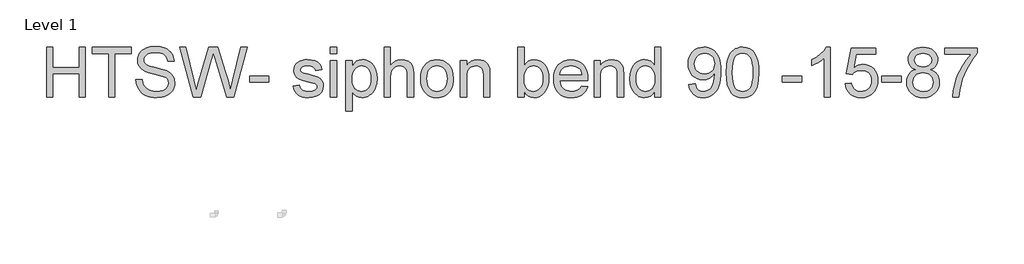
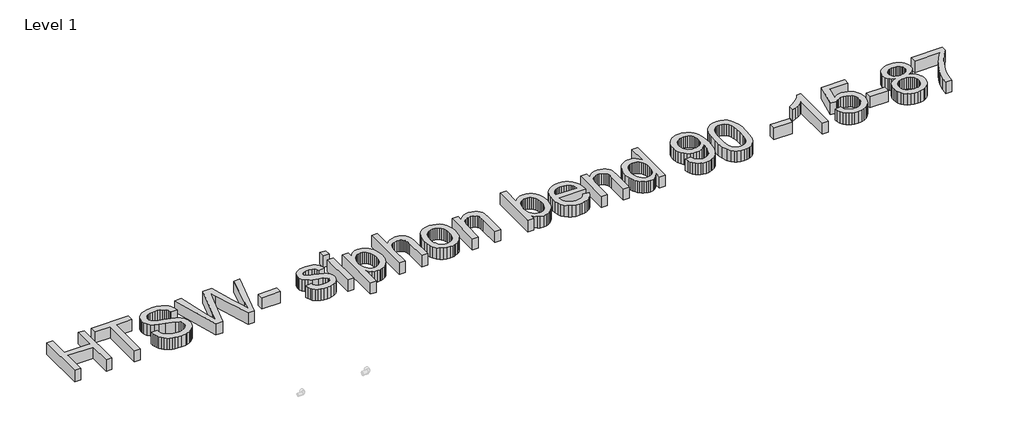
# One storey, part 23 of 29: 1 proxy.
"""IFC4 building model written with IfcOpenShell, lengths in millimetres."""

import ifcopenshell
import ifcopenshell.guid

model = None  # the IFC model being written
_history = None  # IfcOwnerHistory: only IFC2X3 demands one
_inside = {}  # id of a spatial element -> (the spatial element, [elements in it])
_under = {}  # id of a project, library or spatial element -> (it, [spatial elements below it])
_declared = {}  # id of a project -> (the project, [libraries it declares])
_typed = {}  # id of a type object -> (the type object, [elements of that type])
_made_of = {}  # id of a material, layer set ... -> (it, [elements and type objects made of it])


def new_model(schema):
    """Start an empty IFC model of exactly this schema.

    Asked for "IFC4X3", IfcOpenShell would pick the latest addendum, in which some entities
    have other attributes; the version numbers below select the first issue.
    IFC2X3 requires an IfcOwnerHistory on every rooted entity: one is made here for all.
    """
    global model, _history
    if schema == "IFC4X3":
        model = ifcopenshell.file(schema_version=(4, 3, 0, 0))
    else:
        model = ifcopenshell.file(schema=schema)
    _inside.clear()
    _under.clear()
    _declared.clear()
    _typed.clear()
    _made_of.clear()
    _history = None
    if model.schema == "IFC2X3":
        org = make("IfcOrganization", Name="unknown")
        user = make(
            "IfcPersonAndOrganization",
            ThePerson=make("IfcPerson", FamilyName="unknown"),
            TheOrganization=org,
        )
        app = make(
            "IfcApplication",
            ApplicationDeveloper=org,
            Version="unknown",
            ApplicationFullName="unknown",
            ApplicationIdentifier="unknown",
        )
        _history = make(
            "IfcOwnerHistory",
            OwningUser=user,
            OwningApplication=app,
            ChangeAction="ADDED",
            CreationDate=0,
        )
    return model


def make(cls, **values):
    """One entity of the class cls with the attributes given. An attribute that is None is left unset."""
    return model.create_entity(
        cls, **{name: value for name, value in values.items() if value is not None}
    )


def rooted(cls, **values):
    """An entity with a GlobalId (a new one), such as an element, a storey or a relation."""
    return make(cls, GlobalId=ifcopenshell.guid.new(), OwnerHistory=_history, **values)


def si_unit(unit_type, name, prefix=None):
    """IfcSIUnit, for example si_unit("LENGTHUNIT", "METRE", prefix="MILLI")."""
    return make("IfcSIUnit", UnitType=unit_type, Prefix=prefix, Name=name)


def assignment(units):
    """IfcUnitAssignment: the units of a project."""
    return None if units is None else make("IfcUnitAssignment", Units=units)


def point(xyz):
    """IfcCartesianPoint."""
    return None if xyz is None else make("IfcCartesianPoint", Coordinates=xyz)


def direction(xyz):
    """IfcDirection."""
    return None if xyz is None else make("IfcDirection", DirectionRatios=xyz)


def frame(location, z_axis=None, x_axis=None):
    """IfcAxis2Placement3D, a coordinate frame: its origin and axes. An axis left out is left unset."""
    return make(
        "IfcAxis2Placement3D",
        Location=point(location),
        Axis=direction(z_axis),
        RefDirection=direction(x_axis),
    )


def origin():
    """The frame at (0, 0, 0) with its axes left unset."""
    return frame((0.0, 0.0, 0.0))


def origin_with_axes():
    """The frame at (0, 0, 0) with the z axis (0, 0, 1) and the x axis (1, 0, 0) written out."""
    return frame((0.0, 0.0, 0.0), z_axis=(0.0, 0.0, 1.0), x_axis=(1.0, 0.0, 0.0))


def place(relative_to, where):
    """IfcLocalPlacement: puts the frame where relative to a parent placement (None: the world)."""
    return make(
        "IfcLocalPlacement", PlacementRelTo=relative_to, RelativePlacement=where
    )


def context(
    kind, dimensions, precision=None, world=None, true_north=None, identifier=None
):
    """IfcGeometricRepresentationContext, for example the 3D "Model" context."""
    return make(
        "IfcGeometricRepresentationContext",
        ContextIdentifier=identifier,
        ContextType=kind,
        CoordinateSpaceDimension=dimensions,
        Precision=precision,
        WorldCoordinateSystem=world,
        TrueNorth=true_north,
    )


def project(units=None, contexts=None):
    """IfcProject with its units and contexts."""
    return rooted(
        "IfcProject",
        Name="project",
        RepresentationContexts=contexts,
        UnitsInContext=assignment(units),
    )


def spatial(cls, under=None, at=None, **own):
    """A site, building, storey or space (cls), placed at a placement, below another one or the project."""
    s = rooted(cls, ObjectPlacement=at, **own)
    if under is not None:
        _under.setdefault(under.id(), (under, []))[1].append(s)
    return s


def polyline(points):
    """IfcPolyline through the points."""
    return make("IfcPolyline", Points=[point(p) for p in points])


def outline(outer, holes=None, kind="AREA"):
    """IfcArbitraryClosedProfileDef: a profile drawn as a closed curve; with holes, ...WithVoids."""
    if holes is None:
        return make("IfcArbitraryClosedProfileDef", ProfileType=kind, OuterCurve=outer)
    return make(
        "IfcArbitraryProfileDefWithVoids",
        ProfileType=kind,
        OuterCurve=outer,
        InnerCurves=holes,
    )


def extrude(swept, where, along, depth):
    """IfcExtrudedAreaSolid: the profile swept, set in the frame where, extruded along a direction by depth."""
    return make(
        "IfcExtrudedAreaSolid",
        SweptArea=swept,
        Position=where,
        ExtrudedDirection=direction(along),
        Depth=depth,
    )


def shape(context_of_items, identifier, shape_type, items):
    """IfcShapeRepresentation: the items that make up one representation, for example the "Body"."""
    return make(
        "IfcShapeRepresentation",
        ContextOfItems=context_of_items,
        RepresentationIdentifier=identifier,
        RepresentationType=shape_type,
        Items=items,
    )


def made_of(thing, what):
    """Note that an element or type object is made of a material, layer set ...; save() writes the relation."""
    if what is not None:
        _made_of.setdefault(what.id(), (what, []))[1].append(thing)
    return thing


def element(
    cls,
    number,
    at=None,
    inside=None,
    cuts=None,
    type_object=None,
    material=None,
    context=None,
    identifier="Body",
    shape_type=None,
    held_by="IfcProductDefinitionShape",
    body=None,
    shapes=None,
    **own,
):
    """One element of the class cls, such as IfcWall. Its Tag is "e" and its number.

    at: its placement. inside: the storey or other place that contains it. cuts: it is an
    opening in that element (IfcRelVoidsElement). A single representation is given by context,
    identifier, shape_type and body (its items); several are given by shapes. held_by: the class
    of the entity that holds the representations. save() writes the other relations.
    """
    e = rooted(cls, Tag="e%d" % number, ObjectPlacement=at, **own)
    if body is not None:
        shapes = [shape(context, identifier, shape_type, body)]
    if shapes is not None:
        e.Representation = make(held_by, Representations=shapes)
    if inside is not None:
        _inside.setdefault(inside.id(), (inside, []))[1].append(e)
    if cuts is not None:
        rooted(
            "IfcRelVoidsElement", RelatingBuildingElement=cuts, RelatedOpeningElement=e
        )
    if type_object is not None:
        _typed.setdefault(type_object.id(), (type_object, []))[1].append(e)
    return made_of(e, material)


def aggregate(whole, parts):
    """IfcRelAggregates: a whole, such as a stair, and the parts it consists of."""
    return rooted("IfcRelAggregates", RelatingObject=whole, RelatedObjects=parts)


def save(model, path):
    """Write the relations noted so far, then the file.

    IfcRelAggregates (storeys below a building ...), IfcRelContainedInSpatialStructure (elements
    in a storey), IfcRelDefinesByType, IfcRelAssociatesMaterial and IfcRelDeclares: one each for
    every whole, place, type object, material and project.
    """
    for whole, parts in _under.values():
        aggregate(whole, parts)
    for where, things in _inside.values():
        rooted(
            "IfcRelContainedInSpatialStructure",
            RelatedElements=things,
            RelatingStructure=where,
        )
    for kind, things in _typed.values():
        rooted("IfcRelDefinesByType", RelatedObjects=things, RelatingType=kind)
    for what, things in _made_of.values():
        rooted("IfcRelAssociatesMaterial", RelatedObjects=things, RelatingMaterial=what)
    for by, libraries in _declared.values():
        rooted("IfcRelDeclares", RelatingContext=by, RelatedDefinitions=libraries)
    model.write(path)


model = new_model("IFC4")

# Units and contexts
model_context = context("Model", 3, world=origin())
ifc_project = project(units=[si_unit("LENGTHUNIT", "METRE", prefix="MILLI")], contexts=[model_context])

# Site, building, storey
site = spatial("IfcSite", under=ifc_project)
building = spatial("IfcBuilding", under=site)
storey = spatial("IfcBuildingStorey", under=building, Name="Level 1", Elevation=0.0)

# Proxy
placement = place(None, origin())
element("IfcBuildingElementProxy", 1, Name="600mm Arial", ObjectType="600mm Arial", at=placement, inside=storey, context=model_context, shape_type="SweptSolid", body=[
    extrude(outline(polyline([(14483.8034381, 20336.8870935), (14483.8034381, 20939.6249544), (14559.1456707, 20939.6249544), (14559.1456707, 20694.7626984), (14879.3501593, 20694.7626984), (14879.3501593, 20939.6249544), (14954.6923919, 20939.6249544), (14954.6923919, 20336.8870935), (14879.3501593, 20336.8870935), (14879.3501593, 20619.4204658), (14559.1456707, 20619.4204658), (14559.1456707, 20336.8870935), (14483.8034381, 20336.8870935)])), origin_with_axes(), (0.0, 0.0, 1.0), 150.0),
    extrude(outline(polyline([(15237.2257642, 20336.8870935), (15237.2257642, 20864.2827218), (15039.4524036, 20864.2827218), (15039.4524036, 20939.6249544), (15510.3413574, 20939.6249544), (15510.3413574, 20864.2827218), (15312.5679968, 20864.2827218), (15312.5679968, 20336.8870935), (15237.2257642, 20336.8870935)])), origin_with_axes(), (0.0, 0.0, 1.0), 150.0),
    extrude(outline(polyline([(15566.8480319, 20544.0782332), (15642.1902645, 20544.0782332), (15650.8354914, 20502.2684444), (15666.4704762, 20468.6624242), (15690.8610525, 20441.9909795), (15725.7730538, 20420.9849176), (15768.4473652, 20407.3548897), (15816.1248718, 20402.811547), (15858.1002075, 20406.2512437), (15894.8516188, 20416.5703336), (15924.6316663, 20432.9042942), (15945.6929105, 20454.3886027), (15958.2192925, 20479.0550905), (15962.3947531, 20504.9355889), (15959.2677561, 20530.1538996), (15949.8867653, 20551.9509079), (15930.8304779, 20570.5473427), (15898.6775915, 20586.1639334), (15788.9751806, 20614.9323054), (15716.96228, 20633.9701987), (15670.8850601, 20652.0883869), (15633.3794907, 20677.4354564), (15606.8000166, 20708.153603), (15590.9626967, 20743.5806391), (15585.68359, 20783.0543772), (15587.3160664, 20805.4905804), (15592.2134955, 20827.1818225), (15600.3758772, 20848.1281036), (15611.8032117, 20868.3294237), (15626.3667402, 20886.9626468), (15643.937704, 20903.2046369), (15664.5161031, 20917.055394), (15688.1019375, 20928.5149181), (15741.113733, 20943.9107796), (15799.7909112, 20949.0427335), (15863.36092, 20943.6716563), (15918.9846777, 20927.5584249), (15943.3200716, 20915.5562748), (15964.6756215, 20901.0341331), (15983.0513271, 20883.9919997), (15998.4471886, 20864.4298746), (16010.7436443, 20842.9179749), (16019.8211325, 20820.0265177), (16025.6796533, 20795.7555031), (16028.3192066, 20770.104931), (15952.976974, 20770.104931), (15947.9369907, 20794.1460194), (15939.144611, 20815.0601108), (15926.599835, 20832.8472053), (15910.3026626, 20847.5073028), (15889.9495912, 20858.9668269), (15865.2371182, 20867.1522013), (15836.1652435, 20872.063426), (15802.7339672, 20873.7005008), (15768.2358331, 20872.0818201), (15738.7592882, 20867.2257777), (15714.3043326, 20859.1323738), (15694.8709662, 20847.8016084), (15680.0637159, 20834.1807775), (15669.4871085, 20819.2171774), (15663.1411441, 20802.9108079), (15661.0258226, 20785.2616692), (15662.5249418, 20770.0773398), (15667.0222992, 20756.3093562), (15674.5178948, 20743.9577182), (15685.0117287, 20733.0224259), (15701.5296303, 20722.6665477), (15727.5388874, 20712.200305), (15808.0314679, 20690.9367256), (15891.0992224, 20670.7400041), (15941.351903, 20653.1184565), (15984.3021259, 20625.7848243), (16000.9073995, 20609.7175782), (16014.2661144, 20592.0500453), (16024.5346206, 20572.8741963), (16031.8692679, 20552.2820017), (16037.7369857, 20506.8485752), (16036.0493271, 20483.2811349), (16030.9863511, 20460.4034734), (16022.5480578, 20438.2155905), (16010.7344473, 20416.7174864), (15995.752453, 20396.7414941), (15977.8090087, 20379.1199465), (15956.9041143, 20363.8528437), (15933.0377699, 20350.9401857), (15906.9043527, 20340.6716795), (15879.1982399, 20333.3370322), (15819.0679278, 20327.4693144), (15780.5276903, 20329.051207), (15745.2524054, 20333.7968847), (15713.2420733, 20341.7063476), (15684.4966939, 20352.7795957), (15658.8415233, 20367.035023), (15636.1018175, 20384.4910237), (15616.2775765, 20405.1475977), (15599.3688003, 20429.0047451), (15585.7479694, 20455.2899136), (15575.7875644, 20483.2305512), (15569.4875852, 20512.8266577), (15566.8480319, 20544.0782332)])), origin_with_axes(), (0.0, 0.0, 1.0), 150.0),
    extrude(outline(polyline([(16258.6133356, 20336.8870935), (16094.2436602, 20939.6249544), (16171.9403376, 20939.6249544), (16267.2953507, 20543.489622), (16296.7259103, 20421.2056468), (16328.2166091, 20529.3629534), (16447.7046811, 20939.6249544), (16559.6879605, 20939.6249544), (16646.5081113, 20642.2291495), (16683.700981, 20531.8645509), (16711.1081897, 20421.2056468), (16739.6558325, 20539.9579548), (16835.8937624, 20939.6249544), (16913.5904398, 20939.6249544), (16749.0736116, 20336.8870935), (16668.581031, 20336.8870935), (16524.0769833, 20801.8899354), (16503.91705, 20866.7843193), (16481.2555191, 20788.6461836), (16349.5537648, 20336.8870935), (16258.6133356, 20336.8870935)])), origin_with_axes(), (0.0, 0.0, 1.0), 150.0),
    extrude(outline(polyline([(16941.8437771, 20515.8248959), (16941.8437771, 20591.1671285), (17177.288254, 20591.1671285), (17177.288254, 20515.8248959), (16941.8437771, 20515.8248959)])), origin_with_axes(), (0.0, 0.0, 1.0), 150.0),
    extrude(outline(polyline([(17469.2394053, 20468.7360005), (17544.581638, 20478.1537796), (17549.1341776, 20460.9736905), (17556.4642264, 20445.9273168), (17566.5717842, 20433.0146588), (17579.4568511, 20422.2357164), (17595.1562152, 20413.7376423), (17613.7066648, 20407.6675893), (17659.3608204, 20402.811547), (17704.4631531, 20407.2629192), (17721.9927301, 20412.8271343), (17736.174581, 20420.6170356), (17754.9365628, 20439.9676285), (17759.6270582, 20450.8017533), (17761.1905567, 20462.4084302), (17759.6178612, 20472.5803674), (17754.8997746, 20481.6118704), (17736.0274282, 20496.2535738), (17707.8108792, 20505.8185057), (17658.4779037, 20517.7378823), (17589.7207588, 20537.6219041), (17545.0230963, 20554.5996582), (17516.3099066, 20573.1225167), (17495.5061798, 20597.6418517), (17482.8694333, 20626.5941647), (17478.6571844, 20658.4159573), (17482.0416988, 20687.6073936), (17492.1952418, 20714.5547497), (17508.1981086, 20738.1911679), (17529.1305942, 20757.4497904), (17549.934321, 20769.5715021), (17577.0288299, 20779.7434393), (17608.3539818, 20786.6412267), (17641.8496375, 20788.9404892), (17690.8883074, 20785.2432751), (17733.5258307, 20774.1516329), (17767.8124326, 20756.7508146), (17791.7983387, 20734.1260719), (17807.6908409, 20704.6035418), (17817.6972312, 20666.5093612), (17742.3549986, 20657.0915821), (17732.845249, 20680.8015767), (17714.0280849, 20698.6622475), (17685.7195654, 20709.8642543), (17647.7357494, 20713.5982565), (17604.4728268, 20710.0298012), (17575.6308783, 20699.3244351), (17559.4072824, 20683.8733913), (17553.999417, 20666.0679028), (17556.2434972, 20654.4796199), (17562.9757377, 20644.1421358), (17574.4904442, 20634.9082978), (17591.0819221, 20627.5138697), (17655.9763061, 20611.4742147), (17766.5616338, 20576.0103903), (17795.7714643, 20559.0510304), (17817.9179604, 20535.8376765), (17831.8790821, 20506.2967523), (17836.5327893, 20470.3546813), (17831.0697417, 20433.1985998), (17814.6805988, 20398.2498103), (17787.9907601, 20368.2490336), (17751.6256248, 20345.9369906), (17707.7005146, 20332.0862334), (17658.3307509, 20327.4693144), (17617.7809579, 20329.6950005), (17582.3631189, 20336.3720587), (17552.0772336, 20347.500489), (17526.9233022, 20363.0802915), (17506.3770928, 20383.0378898), (17489.9143735, 20407.2997074), (17477.5351443, 20435.8657443), (17469.2394053, 20468.7360005)])), origin_with_axes(), (0.0, 0.0, 1.0), 150.0),
    extrude(outline(polyline([(17921.292801, 20864.2827218), (17921.292801, 20939.6249544), (17996.6350336, 20939.6249544), (17996.6350336, 20864.2827218), (17921.292801, 20864.2827218)])), origin_with_axes(), (0.0, 0.0, 1.0), 150.0),
    extrude(outline(polyline([(17921.292801, 20336.8870935), (17921.292801, 20779.5227101), (17996.6350336, 20779.5227101), (17996.6350336, 20336.8870935), (17921.292801, 20336.8870935)])), origin_with_axes(), (0.0, 0.0, 1.0), 150.0),
    extrude(outline(polyline([(18109.6483825, 20167.3670701), (18109.6483825, 20779.5227101), (18184.9906152, 20779.5227101), (18184.9906152, 20705.6520054), (18209.5651324, 20742.0907171), (18237.0827057, 20768.1183682), (18269.1620157, 20783.7349589), (18307.4217432, 20788.9404892), (18333.6977147, 20787.1194733), (18358.3733995, 20781.6564256), (18381.4487976, 20772.5513463), (18402.9239091, 20759.8042351), (18422.3296843, 20743.746186), (18439.1970738, 20724.7082928), (18453.5260775, 20702.6905554), (18465.3166955, 20677.6929738), (18481.0988331, 20622.1795807), (18486.3595456, 20561.5894161), (18480.4182514, 20497.1548847), (18472.9916336, 20467.4898003), (18462.5943687, 20439.5261701), (18449.369011, 20413.9951597), (18433.4581147, 20391.6279344), (18414.8616798, 20372.4244942), (18393.5797064, 20356.3848392), (18370.6560596, 20343.7342971), (18347.1346045, 20334.6981956), (18323.0153412, 20329.2765347), (18298.2982697, 20327.4693144), (18263.6621798, 20332.3069626), (18232.7416981, 20346.8199073), (18206.2725886, 20368.7272802), (18184.9906152, 20395.7482127), (18184.9906152, 20167.3670701), (18109.6483825, 20167.3670701)]), holes=[polyline([(18184.9906152, 20554.6732346), (18187.0277617, 20518.3632817), (18193.1392014, 20487.1301003), (18203.3249341, 20460.9736905), (18217.5849599, 20439.8940521), (18234.7512535, 20423.6704561), (18253.6557896, 20412.0821733), (18274.298568, 20405.1292036), (18296.6795889, 20402.811547), (18319.3825065, 20405.211977), (18340.402364, 20412.4132671), (18359.7391614, 20424.4154172), (18377.3928986, 20441.2184273), (18392.1035799, 20463.0614208), (18402.6112094, 20490.1835209), (18408.9157871, 20522.5847276), (18411.017313, 20560.2650409), (18408.9663709, 20596.2622942), (18402.8135445, 20627.4402933), (18392.5588339, 20653.7990382), (18378.202239, 20675.338529), (18360.9945587, 20692.0771598), (18342.1865917, 20704.0333247), (18321.778338, 20711.2070236), (18299.7697977, 20713.5982565), (18277.8302352, 20711.0552722), (18257.1874567, 20703.4263194), (18237.8414623, 20690.7113979), (18219.7922519, 20672.9105079), (18204.5665358, 20650.2627725), (18193.6910243, 20623.0073152), (18187.1657175, 20591.1441359), (18184.9906152, 20554.6732346)])]), origin_with_axes(), (0.0, 0.0, 1.0), 150.0),
    extrude(outline(polyline([(18571.1195573, 20336.8870935), (18571.1195573, 20939.6249544), (18646.4617899, 20939.6249544), (18646.4617899, 20718.0128405), (18674.135713, 20749.0436868), (18705.2125445, 20771.208577), (18739.6922845, 20784.5075111), (18777.574933, 20788.9404892), (18823.0819358, 20784.1028409), (18862.1877919, 20769.5898962), (18892.9795149, 20746.5420892), (18913.5441184, 20716.0998541), (18925.1324013, 20674.2716713), (18928.9951622, 20617.066021), (18928.9951622, 20336.8870935), (18853.6529296, 20336.8870935), (18853.6529296, 20609.2669227), (18852.1538105, 20634.7059627), (18847.6564531, 20656.4293945), (18840.1608574, 20674.4372182), (18829.6670235, 20688.7294337), (18816.4232717, 20699.6095437), (18800.6779223, 20707.3810508), (18782.4309753, 20712.0439551), (18761.6824308, 20713.5982565), (18729.8422441, 20709.4044018), (18699.951832, 20696.8228376), (18675.1933737, 20677.0675744), (18658.7490485, 20651.352623), (18649.5336046, 20617.1763856), (18646.4617899, 20572.0372648), (18646.4617899, 20336.8870935), (18571.1195573, 20336.8870935)])), origin_with_axes(), (0.0, 0.0, 1.0), 150.0),
    extrude(outline(polyline([(19013.7551739, 20558.2049018), (19017.829467, 20615.5301137), (19030.0523463, 20664.9274686), (19050.4238118, 20706.3969665), (19078.9438634, 20739.9386074), (19107.6570532, 20761.3769307), (19139.350087, 20776.6900187), (19174.0229651, 20785.8778715), (19211.6756873, 20788.9404892), (19253.2417542, 20785.2110854), (19290.8254986, 20774.0228742), (19324.4269203, 20755.3758556), (19354.0460194, 20729.2700295), (19378.220465, 20696.5883128), (19395.4879262, 20658.2136222), (19405.8484029, 20614.1459577), (19409.3018951, 20564.3853193), (19407.7751848, 20524.0562556), (19403.195054, 20488.2705345), (19395.5615026, 20457.0281561), (19384.8745306, 20430.3291203), (19371.2674953, 20407.2675177), (19354.8737539, 20386.9374389), (19335.6933064, 20369.338884), (19313.7261528, 20354.4718528), (19289.8276186, 20342.6582423), (19264.8530297, 20334.219949), (19238.8023859, 20329.1569731), (19211.6756873, 20327.4693144), (19169.5026151, 20331.1849226), (19131.5693828, 20342.331747), (19097.8759906, 20360.9097878), (19068.4224384, 20386.9190448), (19044.5055102, 20419.9180598), (19027.42199, 20459.4653743), (19017.1718779, 20505.5609883), (19013.7551739, 20558.2049018)]), holes=[polyline([(19089.0974065, 20558.3520546), (19091.2771073, 20521.8075769), (19097.8162098, 20490.1651268), (19108.7147139, 20463.4247042), (19123.9726196, 20441.5863093), (19142.5322663, 20424.6223508), (19163.3359931, 20412.5052376), (19186.3838001, 20405.2349697), (19211.6756873, 20402.811547), (19236.8388158, 20405.2487652), (19259.7946523, 20412.5604199), (19280.5431968, 20424.746511), (19299.0844494, 20441.8070385), (19314.3423551, 20463.8615641), (19325.2408592, 20491.0296495), (19331.7799617, 20523.3112945), (19333.9596625, 20560.7064993), (19331.7661661, 20596.0921488), (19325.1856769, 20626.9068644), (19314.2181949, 20653.1506462), (19298.8637202, 20674.8234942), (19280.2534897, 20691.7874527), (19259.5187408, 20703.904566), (19236.6594733, 20711.1748339), (19211.6756873, 20713.5982565), (19186.3838001, 20711.1840309), (19163.3359931, 20703.9413542), (19142.5322663, 20691.8702262), (19123.9726196, 20674.970647), (19108.7147139, 20653.1966315), (19097.8162098, 20626.5021942), (19091.2771073, 20594.8873352), (19089.0974065, 20558.3520546)])]), origin_with_axes(), (0.0, 0.0, 1.0), 150.0),
    extrude(outline(polyline([(19494.0619068, 20336.8870935), (19494.0619068, 20779.5227101), (19569.4041394, 20779.5227101), (19569.4041394, 20717.7185349), (19595.5789434, 20748.8781399), (19627.0144599, 20771.1350006), (19663.7106889, 20784.489117), (19705.6676304, 20788.9404892), (19742.8053178, 20785.3536397), (19776.8160083, 20774.5930913), (19805.1797101, 20758.0016134), (19825.3764317, 20736.921975), (19839.080036, 20711.4093587), (19847.9643862, 20681.5189466), (19851.9375117, 20608.6783115), (19851.9375117, 20336.8870935), (19776.5952791, 20336.8870935), (19776.5952791, 20598.5247684), (19774.4247753, 20637.4834717), (19767.913264, 20665.184986), (19755.9019169, 20685.0322196), (19737.2319056, 20700.4280811), (19713.3011818, 20710.3057127), (19685.5076971, 20713.5982565), (19662.6300355, 20711.7496495), (19641.3802518, 20706.2038284), (19621.7583458, 20696.9607933), (19603.7643178, 20684.0205441), (19588.7317397, 20665.9115529), (19577.994184, 20641.1622917), (19571.5516506, 20609.7727604), (19569.4041394, 20571.7429592), (19569.4041394, 20336.8870935), (19494.0619068, 20336.8870935)])), origin_with_axes(), (0.0, 0.0, 1.0), 150.0),
    extrude(outline(polyline([(20266.3197911, 20336.8870935), (20190.9775585, 20336.8870935), (20190.9775585, 20939.6249544), (20266.3197911, 20939.6249544), (20266.3197911, 20716.0998541), (20291.0966434, 20747.9676319), (20319.0740692, 20770.7303304), (20350.2520683, 20784.3879495), (20384.6306407, 20788.9404892), (20423.4421912, 20784.8386049), (20460.1200261, 20772.5329522), (20492.5672181, 20752.7960831), (20518.6868398, 20726.40055), (20539.1594728, 20693.6038701), (20554.6656989, 20654.6635609), (20564.4329659, 20611.1983032), (20567.6887215, 20564.8267777), (20564.3180027, 20511.3183415), (20554.2058464, 20464.2478402), (20537.3522525, 20423.6152738), (20513.757221, 20389.4206424), (20485.4349059, 20362.3169364), (20454.3994611, 20342.9571464), (20420.6508866, 20331.3412724), (20384.1891823, 20327.4693144), (20348.6793727, 20332.4633125), (20317.197871, 20347.4453067), (20289.7446771, 20372.4152972), (20266.3197911, 20407.3732838), (20266.3197911, 20336.8870935)]), holes=[polyline([(20266.3197911, 20561.2951105), (20271.470139, 20498.4608658), (20277.9080739, 20474.6589007), (20286.9211828, 20455.9337071), (20305.1773268, 20432.6927621), (20326.3949209, 20416.092087), (20350.573965, 20406.131682), (20377.7144592, 20402.811547), (20400.2472314, 20405.2579623), (20421.198111, 20412.5972081), (20440.5670981, 20424.8292844), (20458.3541926, 20441.9541913), (20473.2258222, 20463.9259435), (20483.8484148, 20490.6985557), (20490.2219704, 20522.2720279), (20492.3464889, 20558.6463602), (20490.3093424, 20595.7104712), (20484.1979027, 20627.5874461), (20474.01217, 20654.2772848), (20459.7521441, 20675.7799874), (20442.6042446, 20692.3254802), (20423.7548909, 20704.1436893), (20403.204083, 20711.2346147), (20380.9518208, 20713.5982565), (20358.4190486, 20711.1518413), (20337.4681689, 20703.8125955), (20318.0991819, 20691.5805191), (20300.3120874, 20674.4556123), (20285.4404578, 20652.7045893), (20274.8178652, 20626.5941647), (20268.4443096, 20596.1243384), (20266.3197911, 20561.2951105)])]), origin_with_axes(), (0.0, 0.0, 1.0), 150.0),
    extrude(outline(polyline([(20962.3525259, 20468.7360005), (21036.2232306, 20459.3182215), (21024.8970636, 20429.731312), (21009.6069682, 20403.6576756), (20990.3529443, 20381.0973122), (20967.1349919, 20362.0502219), (20940.1922343, 20346.9210749), (20909.7637947, 20336.1145413), (20875.8496733, 20329.6306211), (20838.44987, 20327.4693144), (20791.7012654, 20331.1987181), (20750.0478265, 20342.3869293), (20713.4895533, 20361.0339479), (20682.0264456, 20387.139774), (20656.7253614, 20419.9778406), (20638.6531584, 20458.8215808), (20627.8098366, 20503.6709945), (20624.195396, 20554.5260818), (20627.8466248, 20607.105616), (20638.8003112, 20653.4495503), (20657.0564552, 20693.5578849), (20682.6150568, 20727.4306196), (20713.995391, 20754.3411875), (20749.7167327, 20773.5630218), (20789.779082, 20785.0961223), (20834.1824388, 20788.9404892), (20877.1556544, 20785.1053194), (20916.0177887, 20773.59981), (20950.7688416, 20754.423961), (20981.4088133, 20727.5777724), (21006.4201904, 20693.778614), (21024.2854598, 20653.7438559), (21035.0046215, 20607.473498), (21038.5776753, 20554.9675402), (21038.136217, 20534.6604541), (20699.5376286, 20534.6604541), (20703.9016288, 20504.595298), (20712.5790453, 20478.2641442), (20725.5698783, 20455.6669927), (20742.8741276, 20436.8038434), (20763.5353002, 20421.9322137), (20786.5969027, 20411.3096211), (20812.0589353, 20404.9360655), (20839.9213979, 20402.811547), (20880.0205354, 20406.7478844), (20913.7921026, 20418.5568964), (20941.2360994, 20438.9743471), (20962.3525259, 20468.7360005)]), holes=[polyline([(20699.5376286, 20610.0026867), (20963.2354427, 20610.0026867), (20953.0451115, 20649.8075186), (20944.2803229, 20665.4608975), (20933.0691191, 20678.281585), (20912.5229097, 20693.7326288), (20889.1440089, 20704.7690887), (20862.9324167, 20711.3909646), (20833.8881332, 20713.5982565), (20807.3960311, 20711.8370215), (20783.1020238, 20706.5533163), (20761.0061115, 20697.7471411), (20741.108294, 20685.4184957), (20724.41105, 20670.1375973), (20711.9168577, 20652.474663), (20703.6257173, 20632.4296928), (20699.5376286, 20610.0026867)])]), origin_with_axes(), (0.0, 0.0, 1.0), 150.0),
    extrude(outline(polyline([(21113.919908, 20336.8870935), (21113.919908, 20779.5227101), (21189.2621406, 20779.5227101), (21189.2621406, 20717.7185349), (21215.4369445, 20748.8781399), (21246.872461, 20771.1350006), (21283.56869, 20784.489117), (21325.5256316, 20788.9404892), (21362.663319, 20785.3536397), (21396.6740095, 20774.5930913), (21425.0377113, 20758.0016134), (21445.2344328, 20736.921975), (21458.9380371, 20711.4093587), (21467.8223873, 20681.5189466), (21471.7955129, 20608.6783115), (21471.7955129, 20336.8870935), (21396.4532803, 20336.8870935), (21396.4532803, 20598.5247684), (21394.2827765, 20637.4834717), (21387.7712652, 20665.184986), (21375.759918, 20685.0322196), (21357.0899068, 20700.4280811), (21333.159183, 20710.3057127), (21305.3656982, 20713.5982565), (21282.4880367, 20711.7496495), (21261.2382529, 20706.2038284), (21241.616347, 20696.9607933), (21223.6223189, 20684.0205441), (21208.5897409, 20665.9115529), (21197.8521852, 20641.1622917), (21191.4096517, 20609.7727604), (21189.2621406, 20571.7429592), (21189.2621406, 20336.8870935), (21113.919908, 20336.8870935)])), origin_with_axes(), (0.0, 0.0, 1.0), 150.0),
    extrude(outline(polyline([(21848.5066759, 20336.8870935), (21848.5066759, 20407.9618949), (21825.9647067, 20372.746391), (21798.6586656, 20347.5924595), (21766.5885527, 20332.5001007), (21729.7543679, 20327.4693144), (21704.885545, 20329.2903303), (21681.0467917, 20334.7533779), (21658.238108, 20343.8584573), (21636.4594939, 20356.6055684), (21616.3915311, 20372.6130337), (21598.7148012, 20391.4991757), (21583.4293043, 20413.2639942), (21570.5350404, 20437.9074894), (21560.2987239, 20464.9606116), (21552.9870692, 20493.9543113), (21547.1377455, 20557.7634434), (21552.5272167, 20620.7816292), (21568.6956304, 20677.6929738), (21580.8173421, 20703.0492403), (21595.6245924, 20725.2601158), (21613.1173813, 20744.3256002), (21633.2957087, 20760.2456935), (21655.4468034, 20772.7996666), (21678.8578939, 20781.7667902), (21703.5289802, 20787.1470644), (21729.4600623, 20788.9404892), (21766.3218382, 20783.8085353), (21798.916183, 20768.4126738), (21826.5441208, 20744.8130438), (21848.5066759, 20715.0697845), (21848.5066759, 20939.6249544), (21923.8489085, 20939.6249544), (21923.8489085, 20336.8870935), (21848.5066759, 20336.8870935)]), holes=[polyline([(21622.4799781, 20558.057749), (21624.6044966, 20521.5224683), (21630.9780522, 20489.9076094), (21641.6006448, 20463.2131721), (21656.4722744, 20441.4391565), (21674.2317778, 20424.5395774), (21693.5179914, 20412.4684494), (21714.3309152, 20405.2257726), (21736.6705494, 20402.811547), (21759.1159496, 20405.115408), (21779.8047133, 20412.026991), (21798.7368405, 20423.546296), (21815.9123312, 20439.6733229), (21830.172357, 20460.5368306), (21840.3580897, 20486.2655776), (21846.4695294, 20516.859564), (21848.5066759, 20552.3187899), (21846.4327412, 20591.1947197), (21840.2109369, 20624.5340255), (21829.8412632, 20652.3367073), (21815.32372, 20674.6027651), (21797.7711503, 20691.6632926), (21778.2963971, 20703.8493837), (21756.8994606, 20711.1610383), (21733.5803406, 20713.5982565), (21710.7992481, 20711.2576073), (21689.9863242, 20704.2356598), (21671.141569, 20692.5324138), (21654.2649825, 20676.1478694), (21640.3590431, 20654.7233417), (21630.4262292, 20627.9001458), (21624.4665409, 20595.6782815), (21622.4799781, 20558.057749)])]), origin_with_axes(), (0.0, 0.0, 1.0), 150.0),
    extrude(outline(polyline([(22262.8889553, 20487.5715587), (22338.2311879, 20496.9893378), (22351.1070577, 20454.2230558), (22360.5800191, 20437.9580731), (22372.0763315, 20425.1051959), (22385.4672361, 20415.3517245), (22400.6239743, 20408.3849592), (22436.2349514, 20402.811547), (22468.1855027, 20406.3983965), (22497.2297862, 20417.1589448), (22521.3628451, 20433.9159697), (22538.5797225, 20455.4922487), (22551.6211392, 20483.8559506), (22563.2278162, 20520.9752439), (22571.3947964, 20563.5759789), (22574.1171232, 20608.3840059), (22573.6756648, 20623.0992857), (22547.5744373, 20591.2407049), (22513.416594, 20566.0040001), (22473.6669444, 20549.5596749), (22430.7902979, 20544.0782332), (22394.9999783, 20547.4259593), (22362.0883353, 20557.4691378), (22332.0553689, 20574.2077686), (22304.9010791, 20597.6418517), (22282.4004966, 20626.5481794), (22266.3286519, 20659.7035442), (22256.6855451, 20697.1079461), (22253.4711762, 20738.761385), (22256.841895, 20781.8035784), (22266.9540513, 20820.4311879), (22283.8076452, 20854.6442135), (22307.4026767, 20884.4426551), (22336.0744797, 20908.584911), (22368.1583882, 20925.8293796), (22403.6544022, 20936.1760607), (22442.5625217, 20939.6249544), (22471.289507, 20937.6567857), (22498.7564965, 20931.7522797), (22524.9634901, 20921.9114363), (22549.9104879, 20908.1342556), (22572.7651569, 20890.7150431), (22592.695164, 20869.9481045), (22609.7005092, 20845.8334397), (22623.7811926, 20818.3710488), (22634.8222509, 20785.9790391), (22642.7087212, 20747.0755181), (22647.4406034, 20701.6604858), (22649.0178974, 20649.7339422), (22647.4452019, 20595.2000349), (22642.7271153, 20546.5246484), (22634.8636377, 20503.7077827), (22623.854769, 20466.7494378), (22609.7418959, 20434.7483027), (22592.5664053, 20406.8030667), (22572.328297, 20382.9137296), (22549.0275711, 20363.0802915), (22523.1332772, 20347.500489), (22495.1144647, 20336.3720587), (22464.9711338, 20329.6950005), (22432.7032843, 20327.4693144), (22398.8673378, 20330.0950721), (22368.2871469, 20337.9723454), (22340.9627117, 20351.1011341), (22316.8940322, 20369.4814383), (22296.6881136, 20392.6166172), (22280.9519613, 20420.0100303), (22269.6855752, 20451.6616774), (22262.8889553, 20487.5715587)]), holes=[polyline([(22573.6756648, 20740.5272186), (22571.6431168, 20767.529757), (22565.5454727, 20791.5892395), (22555.3827326, 20812.705666), (22541.1548964, 20830.8790366), (22523.56094, 20845.4931489), (22503.2998391, 20855.9318005), (22480.3715938, 20862.1949914), (22454.776204, 20864.2827218), (22428.3622767, 20862.0340431), (22404.449947, 20855.288007), (22383.0392149, 20844.0446135), (22364.1300804, 20828.3038626), (22348.6790366, 20808.9854594), (22337.6425767, 20787.0091087), (22331.0207008, 20762.3748106), (22328.8134088, 20735.0825651), (22330.9011392, 20710.6046168), (22337.1643301, 20688.5270986), (22347.6029817, 20668.8500104), (22362.217094, 20651.5733522), (22380.3996616, 20637.5064644), (22401.5436793, 20627.4586874), (22425.649147, 20621.4300212), (22452.7160648, 20619.4204658), (22477.9573682, 20621.4300212), (22500.8534239, 20627.4586874), (22521.4042318, 20637.5064644), (22539.6097921, 20651.5733522), (22554.5136114, 20669.1903012), (22565.1591966, 20689.8882619), (22571.5465478, 20713.6672344), (22573.6756648, 20740.5272186)])]), origin_with_axes(), (0.0, 0.0, 1.0), 150.0),
    extrude(outline(polyline([(22714.942351, 20633.3999816), (22720.478975, 20729.8770348), (22727.399755, 20770.7901112), (22737.0888471, 20806.8195541), (22749.5048644, 20838.2596691), (22764.6064203, 20865.4047618), (22782.3935148, 20888.2548323), (22802.8661478, 20906.8098804), (22826.0932973, 20921.1664753), (22852.1439411, 20931.4211859), (22881.0180792, 20937.5740123), (22912.7157116, 20939.6249544), (22959.1424194, 20934.768912), (23000.7130848, 20920.200785), (23035.4779334, 20896.4907904), (23061.4871904, 20864.2091454), (23081.132089, 20823.6317613), (23096.803862, 20775.0345497), (23107.0677696, 20713.322345), (23110.4890722, 20633.3999816), (23105.0076305, 20537.4747513), (23098.1558283, 20496.6996307), (23088.5633053, 20460.7161731), (23076.243857, 20429.2622625), (23061.2112789, 20402.075783), (23043.4655712, 20379.1567347), (23023.0067337, 20360.5051176), (22999.7519931, 20346.0519537), (22973.6185759, 20335.7282652), (22944.606482, 20329.5340521), (22912.7157116, 20327.4693144), (22871.2186225, 20331.0561639), (22834.430423, 20341.8167122), (22802.351113, 20359.7509595), (22774.9806926, 20384.8589056), (22748.7139181, 20430.2463468), (22729.9519364, 20486.7990065), (22718.6947473, 20554.5168848), (22714.942351, 20633.3999816)]), holes=[polyline([(22790.2845836, 20633.5471344), (22792.4918755, 20568.0503437), (22799.1137515, 20515.0339496), (22810.1502113, 20474.4979523), (22825.6012551, 20446.4423516), (22844.2896605, 20427.3538746), (22865.038205, 20413.7192482), (22887.8468887, 20405.5384723), (22912.7157116, 20402.811547), (22937.5845344, 20405.5476694), (22960.3932181, 20413.7560364), (22981.1417627, 20427.4366481), (22999.830168, 20446.5895044), (23015.2812118, 20474.6910903), (23026.3176717, 20515.2178906), (23032.9395476, 20568.1699053), (23035.1468396, 20633.5471344), (23033.013124, 20697.3102812), (23026.6119773, 20749.3931747), (23015.9433994, 20789.7958148), (23001.0073904, 20818.5182016), (22982.6316848, 20838.5401792), (22961.6440169, 20852.8415917), (22938.0443869, 20861.4224393), (22911.8327948, 20864.2827218), (22887.0927306, 20861.7627301), (22864.670323, 20854.2027551), (22844.565572, 20841.6027968), (22826.7784775, 20823.9628551), (22810.8123989, 20792.6928855), (22799.4080571, 20750.5336089), (22792.5654519, 20697.4850251), (22790.2845836, 20633.5471344)])]), origin_with_axes(), (0.0, 0.0, 1.0), 150.0),
    extrude(outline(polyline([(23393.0224445, 20515.8248959), (23393.0224445, 20591.1671285), (23628.4669214, 20591.1671285), (23628.4669214, 20515.8248959), (23393.0224445, 20515.8248959)])), origin_with_axes(), (0.0, 0.0, 1.0), 150.0),
    extrude(outline(polyline([(23976.9247472, 20336.8870935), (23901.5825146, 20336.8870935), (23901.5825146, 20806.5988249), (23870.128604, 20781.159785), (23830.2134075, 20755.7575332), (23788.3116483, 20733.5558548), (23750.8980494, 20717.7185349), (23750.8980494, 20788.9404892), (23810.0718683, 20821.1301637), (23861.3362243, 20859.4266794), (23901.7480615, 20900.1512163), (23928.3643239, 20939.6249544), (23976.9247472, 20939.6249544), (23976.9247472, 20336.8870935)])), origin_with_axes(), (0.0, 0.0, 1.0), 150.0),
    extrude(outline(polyline([(24155.8625497, 20496.9893378), (24231.2047823, 20506.4071169), (24236.8333768, 20482.186686), (24245.0371453, 20461.1760255), (24255.8160878, 20443.3751355), (24269.1702042, 20428.7840159), (24285.0719034, 20417.4210607), (24303.4935943, 20409.3046642), (24324.4352769, 20404.4348263), (24347.8969512, 20402.811547), (24376.5917468, 20405.0694228), (24401.902028, 20411.84305), (24423.827795, 20423.1324287), (24442.3690475, 20438.9375589), (24457.1119185, 20458.4766914), (24467.6425406, 20480.9680769), (24473.9609139, 20506.4117154), (24476.0670383, 20534.8076069), (24474.0942711, 20561.6445984), (24468.1759695, 20585.5017458), (24458.3121335, 20606.379049), (24444.5027631, 20624.2765081), (24426.701873, 20638.633103), (24404.8634781, 20648.8878136), (24378.9875783, 20655.04064), (24349.0741735, 20657.0915821), (24312.5250973, 20653.8174323), (24282.9289908, 20643.9949831), (24259.2925726, 20628.9486094), (24240.6225614, 20610.0026867), (24165.2803288, 20619.4204658), (24231.2047823, 20930.2071753), (24523.1559337, 20930.2071753), (24523.1559337, 20854.8649427), (24292.1260407, 20854.8649427), (24259.8995779, 20688.8765865), (24286.4882491, 20707.9328738), (24313.7207138, 20721.5445076), (24341.596972, 20729.7114879), (24370.1170237, 20732.4338147), (24406.8086542, 20729.0584974), (24440.5112434, 20718.9325455), (24471.2247915, 20702.0559589), (24498.9492984, 20678.4287378), (24521.9005364, 20649.4948189), (24538.2942778, 20616.698139), (24548.1305226, 20580.0386982), (24551.4092709, 20539.5164964), (24548.4570179, 20500.4842167), (24539.6002588, 20464.1742638), (24524.8389938, 20430.5866376), (24504.1732227, 20399.7213383), (24472.8664649, 20368.1110778), (24436.3357828, 20345.5323204), (24394.5811763, 20331.9850659), (24347.6026456, 20327.4693144), (24308.7221172, 20330.3709836), (24273.6031822, 20339.0759913), (24242.2458407, 20353.5843375), (24214.6500925, 20373.8960222), (24191.6896575, 20398.9993698), (24174.2382553, 20427.882705), (24162.2958861, 20460.5460276), (24155.8625497, 20496.9893378)])), origin_with_axes(), (0.0, 0.0, 1.0), 150.0),
    extrude(outline(polyline([(24598.4981663, 20515.8248959), (24598.4981663, 20591.1671285), (24833.9426432, 20591.1671285), (24833.9426432, 20515.8248959), (24598.4981663, 20515.8248959)])), origin_with_axes(), (0.0, 0.0, 1.0), 150.0),
    extrude(outline(polyline([(25009.6430841, 20668.8638059), (24969.3048233, 20688.7294337), (24953.6468459, 20701.3109979), (24940.9963038, 20715.6583957), (24924.2760671, 20749.0988691), (24918.7026549, 20788.4990308), (24921.7376813, 20819.2263744), (24930.8427607, 20847.3969382), (24946.017893, 20873.0107221), (24967.2630782, 20896.0677261), (24993.5574438, 20915.1240135), (25023.8801173, 20928.7356473), (25058.2310986, 20936.9026276), (25096.6103877, 20939.6249544), (25135.1736179, 20936.8382483), (25169.7821166, 20928.4781299), (25200.4358838, 20914.5445994), (25227.1349196, 20895.0376566), (25248.7663809, 20871.5299971), (25264.2174247, 20845.5943164), (25273.488051, 20817.2306146), (25276.5782598, 20786.4388916), (25271.078424, 20748.3079228), (25254.5789165, 20715.4376665), (25242.1583006, 20701.1868377), (25226.8957963, 20688.6742514), (25187.8451225, 20668.8638059), (25212.6081793, 20658.3285853), (25234.216648, 20644.9698703), (25252.6705286, 20628.7876611), (25267.9698211, 20609.7819575), (25279.9765697, 20588.3758239), (25288.5528187, 20564.9923246), (25293.6985681, 20539.6314595), (25295.4138179, 20512.2932288), (25292.0109095, 20474.714083), (25281.8021841, 20440.2619341), (25264.7876418, 20408.9367822), (25240.9672826, 20380.7386273), (25211.5919053, 20357.4333029), (25177.9123087, 20340.7866426), (25139.9284927, 20330.7986465), (25097.6404573, 20327.4693144), (25055.352422, 20330.812442), (25017.368606, 20340.8418249), (24983.6890093, 20357.5574631), (24954.313632, 20380.9593565), (24930.4932728, 20409.355248), (24913.4787305, 20441.0528804), (24903.2700052, 20476.0522537), (24899.8670967, 20514.353368), (24901.6513244, 20542.937799), (24907.0040074, 20569.0942088), (24915.9251458, 20592.8225975), (24928.4147395, 20614.122965), (24944.1968771, 20632.6090353), (24962.9956471, 20647.8945322), (24984.8110494, 20659.9794557), (25009.6430841, 20668.8638059)]), holes=[polyline([(24994.0448875, 20786.2917388), (24995.714152, 20769.0196791), (25000.7219457, 20753.4030884), (25009.0682685, 20739.4419667), (25020.7531203, 20727.136314), (25035.6293485, 20717.0931355), (25053.5498002, 20709.9194366), (25074.5144754, 20705.6152172), (25098.5233741, 20704.1804775), (25121.9390631, 20705.6060202), (25142.4484843, 20709.8826484), (25160.0516378, 20717.010362), (25174.7485235, 20726.9891612), (25186.3368064, 20739.0372965), (25194.6141513, 20752.3730188), (25199.5805582, 20766.9963281), (25201.2360272, 20782.9072244), (25199.5253759, 20799.4389216), (25194.3934221, 20814.6002583), (25185.8401657, 20828.3912346), (25173.8656067, 20840.8118505), (25158.8376272, 20851.0803567), (25141.1241092, 20858.4150039), (25120.7250525, 20862.8157923), (25097.6404573, 20864.2827218), (25074.3765197, 20862.847982), (25053.880894, 20858.5437626), (25036.1535804, 20851.3700637), (25021.1945787, 20841.3268853), (25009.3165888, 20829.2787499), (25000.8323103, 20816.0901804), (24995.7417432, 20801.7611767), (24994.0448875, 20786.2917388)]), polyline([(24975.2093293, 20517.0021183), (24978.3547204, 20488.178564), (24987.7908936, 20460.2747147), (25005.210106, 20435.9393207), (25032.304615, 20417.8211324), (25064.751807, 20406.5639434), (25098.2290685, 20402.811547), (25125.4707303, 20404.7843142), (25149.5118186, 20410.7026158), (25170.3523337, 20420.5664518), (25187.9922753, 20434.3758222), (25202.0269735, 20451.2294161), (25212.0517578, 20470.2259226), (25218.0666284, 20491.3653418), (25220.0715853, 20514.6476735), (25218.0022491, 20538.3024858), (25211.7942404, 20559.8235826), (25201.4475593, 20579.2109637), (25186.9622058, 20596.4646293), (25168.8440175, 20610.6280861), (25147.5988323, 20620.744841), (25123.2266501, 20626.8148939), (25095.727471, 20628.8382449), (25068.8858809, 20626.842485), (25045.1620907, 20620.8552056), (25024.5561005, 20610.8764064), (25007.0679101, 20596.9060877), (24993.129781, 20579.9375306), (24983.1739745, 20560.9640167), (24977.2004906, 20539.985546), (24975.2093293, 20517.0021183)])]), origin_with_axes(), (0.0, 0.0, 1.0), 150.0),
    extrude(outline(polyline([(25361.3382715, 20854.8649427), (25361.3382715, 20930.2071753), (25756.8849927, 20930.2071753), (25756.8849927, 20869.2859169), (25700.5070769, 20797.9352039), (25644.6809842, 20707.1971098), (25595.4399791, 20605.3489795), (25575.5513587, 20553.362655), (25558.8173265, 20500.6681577), (25540.8646851, 20422.346081), (25530.8582948, 20336.8870935), (25455.5160622, 20336.8870935), (25463.6646484, 20414.5469827), (25485.4616566, 20506.8485752), (25501.3311662, 20556.2137405), (25520.3184757, 20604.6867919), (25542.4235851, 20652.2677294), (25567.6464944, 20698.9565531), (25622.90237, 20784.1764173), (25681.5427601, 20854.8649427), (25361.3382715, 20854.8649427)])), origin_with_axes(), (0.0, 0.0, 1.0), 150.0),
])

save(model, "model.ifc")
